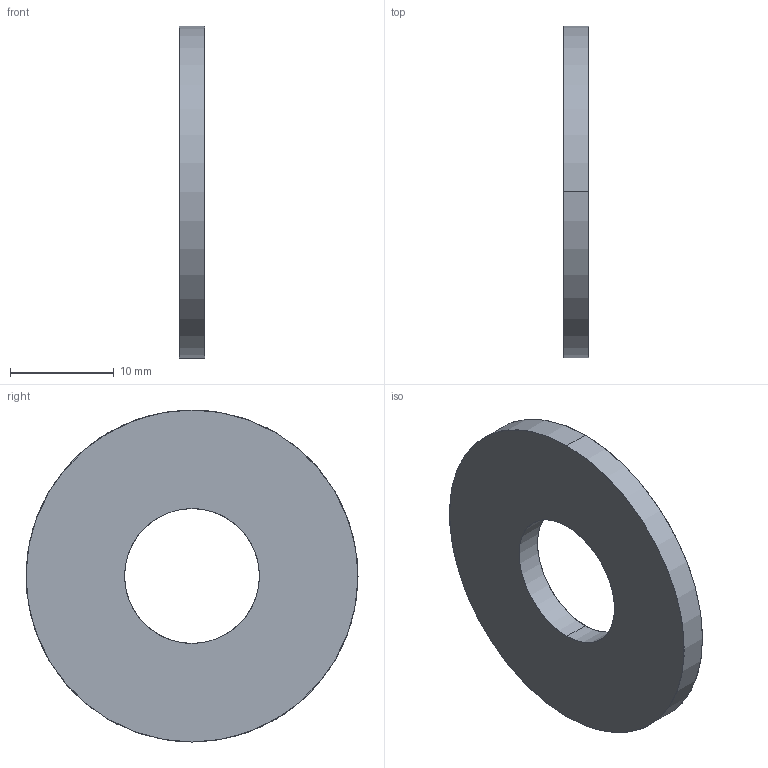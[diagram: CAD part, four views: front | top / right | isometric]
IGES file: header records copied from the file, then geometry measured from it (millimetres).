
Start section: START RECORD GO HERE.
Global section: file name: Rondelle_plate56.igs; native system: IBM CATIA IGES - CATIA Version 5 Release 18 ; preprocessor: CATIA Version 5 Release 18 ; author: Propriétaire; organization: FUJITSU-79916BB; date: 20090111.191553; units: millimetre
Bounding box: 2.5 x 32 x 32 mm (x, y, z)
Surface area: 1696.5 mm2 (no closed solid volume)
Topology: 0 solids, 0 shells, 6 faces, 24 edges, 24 vertices
Faces by surface type: revolution 4, plane 2
